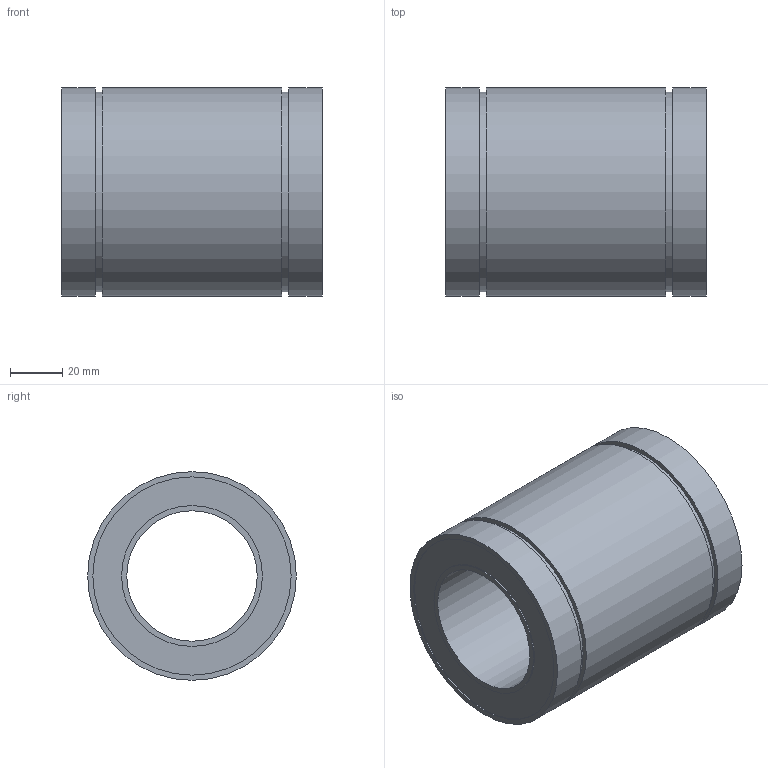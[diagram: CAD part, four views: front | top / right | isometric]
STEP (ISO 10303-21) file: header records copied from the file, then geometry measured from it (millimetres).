
FILE_DESCRIPTION(/* description */ (''),/* implementation_level */ '2;1');
FILE_NAME(/* name */ 'LM50UU.stp',/* time_stamp */ '2025-06-18T09:29:48+08:00',/* author */ (''),/* organization */ (''),/* preprocessor_version */ 'ST-DEVELOPER v19.3',/* originating_system */ 'SIEMENS PLM Software NX2212.4000',/* authorisation */ '');
FILE_SCHEMA (('AUTOMOTIVE_DESIGN { 1 0 10303 214 3 1 1 1 }'));
Length unit declared in the file: millimetre
Products named in the file (1): 标准型LM直线轴承_LM-50-B-2S
__step
Bounding box: 100 x 80 x 80 mm (x, y, z)
Volume: 301822 mm3; surface area: 49038.8 mm2
Topology: 1 solids, 1 shells, 20 faces, 30 edges, 20 vertices
Faces by surface type: cylinder 10, plane 10
Full cylindrical faces by diameter (mm): 50 x1, 54 x2, 76 x2, 76.5 x2, 80 x3
Entity records: 573 total; most frequent: DIRECTION 82, CARTESIAN_POINT 61, AXIS2_PLACEMENT_3D 41, FACE_BOUND 40, EDGE_LOOP 40, ORIENTED_EDGE 40, PRESENTATION_STYLE_ASSIGNMENT 21, SURFACE_STYLE_USAGE 21
